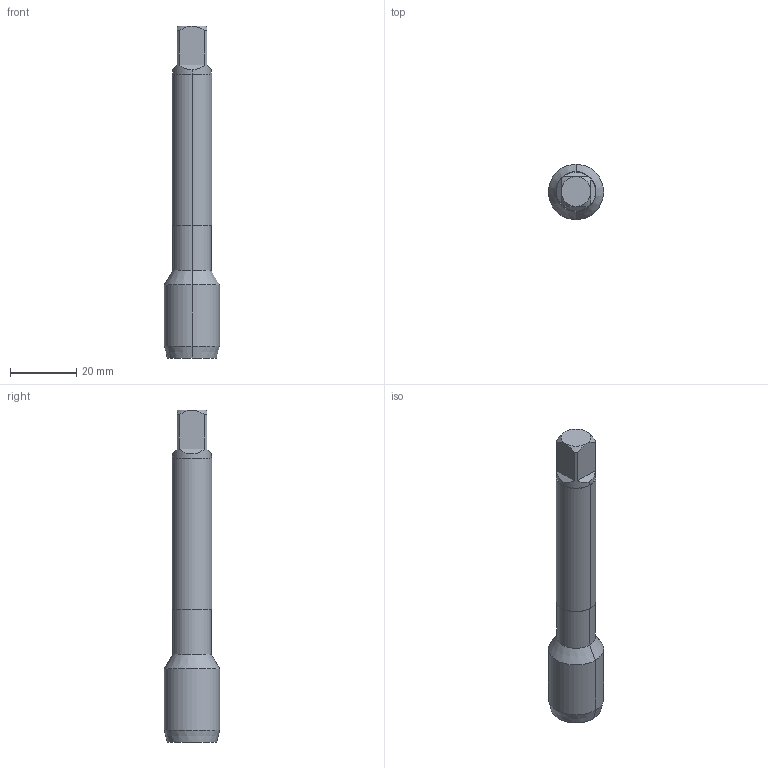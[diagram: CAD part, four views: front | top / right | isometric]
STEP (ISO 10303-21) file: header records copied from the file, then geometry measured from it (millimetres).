
FILE_DESCRIPTION (( 'STEP AP214' ), '1' );
FILE_NAME ('TC728480.STEP', '2020-03-10T05:13:42', ( 'USER' ), ( '' ), 'SwSTEP 2.0', 'SolidWorks 2018', '' );
FILE_SCHEMA (( 'AUTOMOTIVE_DESIGN' ));
Length unit declared in the file: millimetre
Products named in the file (1): TC728480
Bounding box: 16.66 x 16.66 x 100 mm (x, y, z)
Volume: 13211.3 mm3; surface area: 4787.7 mm2
Topology: 2 solids, 2 shells, 28 faces, 62 edges, 40 vertices
Faces by surface type: plane 14, cylinder 8, cone 6
Entity records: 1183 total; most frequent: CARTESIAN_POINT 215, DIRECTION 132, ORIENTED_EDGE 124, EDGE_CURVE 62, AXIS2_PLACEMENT_3D 53, VERTEX_POINT 40, UNCERTAINTY_MEASURE_WITH_UNIT 32, FILL_AREA_STYLE 31
